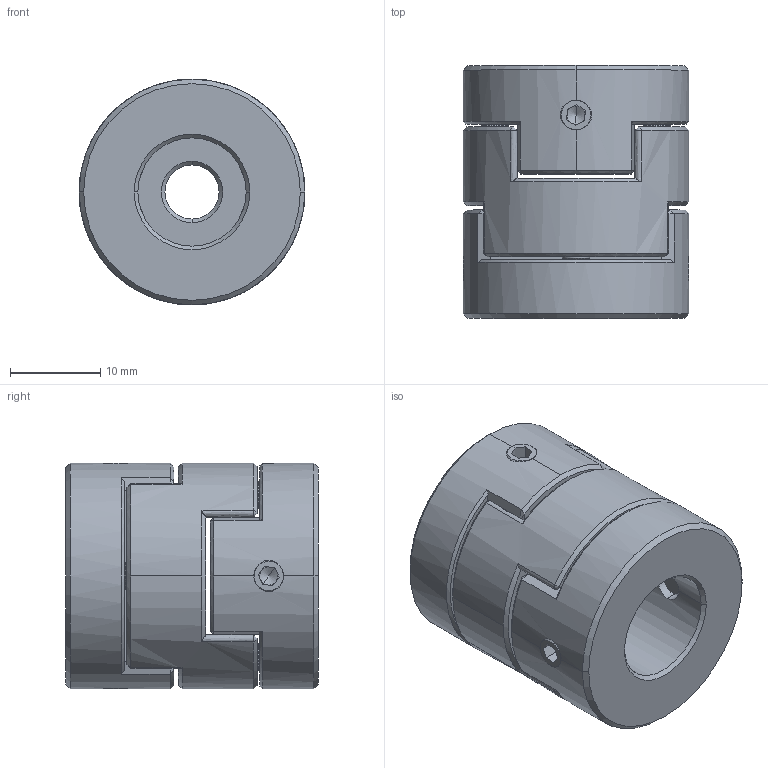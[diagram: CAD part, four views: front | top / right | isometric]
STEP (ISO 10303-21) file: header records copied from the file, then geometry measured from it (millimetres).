
FILE_DESCRIPTION (( 'STEP AP203' ), '1' );
FILE_NAME ('LZ-D-D25L28-6-12.STEP', '2021-10-30T02:12:39', ( '' ), ( '' ), 'SwSTEP 2.0', 'SolidWorks 2018', '' );
FILE_SCHEMA (( 'CONFIG_CONTROL_DESIGN' ));
Length unit declared in the file: millimetre
Products named in the file (1): LZ-D-D25L28-6-12
Bounding box: 25 x 28 x 25 mm (x, y, z)
Volume: 11061.7 mm3; surface area: 5524.2 mm2
Topology: 1 solids, 1 shells, 219 faces, 580 edges, 352 vertices
Faces by surface type: plane 89, cone 54, bspline 50, cylinder 26
Entity records: 9944 total; most frequent: CARTESIAN_POINT 4977, ORIENTED_EDGE 1144, DIRECTION 842, EDGE_CURVE 572, VERTEX_POINT 352, AXIS2_PLACEMENT_3D 306, EDGE_LOOP 234, LINE 230
